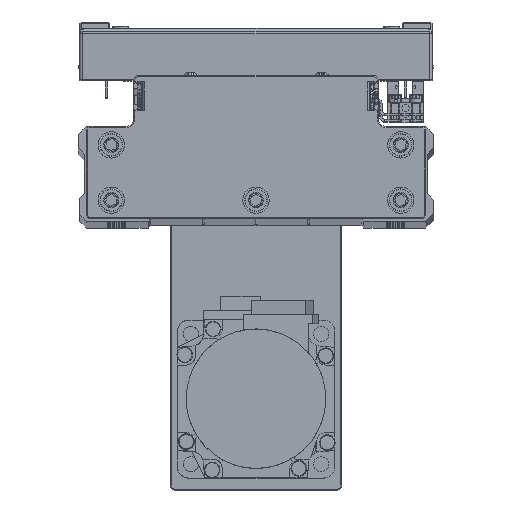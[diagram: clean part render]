
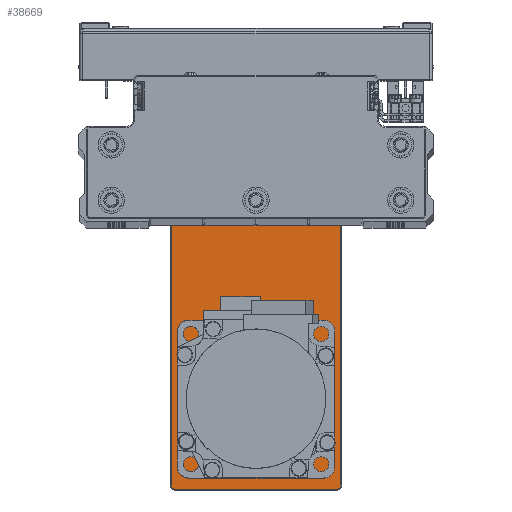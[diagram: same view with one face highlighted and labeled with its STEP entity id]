
A CAD part, top view. The second image highlights one B-rep face of the part: STEP entity #38669.
In plain terms, the highlighted planar face has unit normal (0, 0, 1) as drawn and (0, 1, 0) by its records, which use the part's own axes.
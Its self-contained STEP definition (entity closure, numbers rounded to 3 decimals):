
#66 = ORIENTED_EDGE ( 'NONE', *, *, #2328, .T. ) ;
#200 = CARTESIAN_POINT ( 'NONE',  ( 83.5, 6., -32.2 ) ) ;
#673 = ORIENTED_EDGE ( 'NONE', *, *, #17293, .T. ) ;
#685 = CARTESIAN_POINT ( 'NONE',  ( 52.5, 6., 10.3 ) ) ;
#834 = DIRECTION ( 'NONE',  ( -1., 0., 0. ) ) ;
#1275 = CARTESIAN_POINT ( 'NONE',  ( 52.5, 6., 0. ) ) ;
#1372 = FACE_BOUND ( 'NONE', #15779, .T. ) ;
#1401 = CARTESIAN_POINT ( 'NONE',  ( 61.051, 6., 25.017 ) ) ;
#1413 = ORIENTED_EDGE ( 'NONE', *, *, #8749, .F. ) ;
#1480 = DIRECTION ( 'NONE',  ( 0., 1., 0. ) ) ;
#1485 = DIRECTION ( 'NONE',  ( 0., 0., -1. ) ) ;
#1624 = EDGE_CURVE ( 'NONE', #1679, #27029, #6423, .T. ) ;
#1679 = VERTEX_POINT ( 'NONE', #44539 ) ;
#2127 = EDGE_LOOP ( 'NONE', ( #8379, #1413 ) ) ;
#2286 = CARTESIAN_POINT ( 'NONE',  ( 75.992, 6., -8.551 ) ) ;
#2328 = EDGE_CURVE ( 'NONE', #17771, #6140, #5824, .T. ) ;
#2480 = DIRECTION ( 'NONE',  ( 0., 0., 1. ) ) ;
#3033 = CARTESIAN_POINT ( 'NONE',  ( 75.992, 6., -7.026 ) ) ;
#3960 = EDGE_CURVE ( 'NONE', #20935, #34644, #19447, .T. ) ;
#3986 = DIRECTION ( 'NONE',  ( 0., 0., 1. ) ) ;
#4162 = ORIENTED_EDGE ( 'NONE', *, *, #21222, .T. ) ;
#4427 = LINE ( 'NONE', #18349, #33064 ) ;
#4458 = DIRECTION ( 'NONE',  ( 0., 1., 0. ) ) ;
#4847 = VECTOR ( 'NONE', #38816, 1000. ) ;
#5225 = EDGE_CURVE ( 'NONE', #31842, #7016, #6133, .T. ) ;
#5824 = LINE ( 'NONE', #19754, #27624 ) ;
#6111 = VERTEX_POINT ( 'NONE', #9566 ) ;
#6126 = CIRCLE ( 'NONE', #31684, 1.525 ) ;
#6133 = CIRCLE ( 'NONE', #31691, 1.2 ) ;
#6140 = VERTEX_POINT ( 'NONE', #30617 ) ;
#6423 = CIRCLE ( 'NONE', #31970, 1.525 ) ;
#6776 = AXIS2_PLACEMENT_3D ( 'NONE', #10904, #24840, #38772 ) ;
#7016 = VERTEX_POINT ( 'NONE', #37760 ) ;
#7586 = ORIENTED_EDGE ( 'NONE', *, *, #18562, .F. ) ;
#7630 = AXIS2_PLACEMENT_3D ( 'NONE', #25797, #39740, #8450 ) ;
#8144 = CARTESIAN_POINT ( 'NONE',  ( 52.5, 6., 0. ) ) ;
#8352 = VERTEX_POINT ( 'NONE', #200 ) ;
#8379 = ORIENTED_EDGE ( 'NONE', *, *, #17627, .F. ) ;
#8450 = DIRECTION ( 'NONE',  ( 0., 0., -1. ) ) ;
#8710 = VERTEX_POINT ( 'NONE', #27548 ) ;
#8749 = EDGE_CURVE ( 'NONE', #6111, #39353, #14745, .T. ) ;
#8910 = CARTESIAN_POINT ( 'NONE',  ( 61.051, 6., 21.967 ) ) ;
#9157 = CARTESIAN_POINT ( 'NONE',  ( 83.5, 6., 32.2 ) ) ;
#9566 = CARTESIAN_POINT ( 'NONE',  ( -50.5, 6., -15. ) ) ;
#10512 = DIRECTION ( 'NONE',  ( 0., 0., 1. ) ) ;
#10820 = VERTEX_POINT ( 'NONE', #9157 ) ;
#10904 = CARTESIAN_POINT ( 'NONE',  ( 83.5, 6., -31. ) ) ;
#10950 = LINE ( 'NONE', #24885, #4847 ) ;
#11049 = ORIENTED_EDGE ( 'NONE', *, *, #3960, .T. ) ;
#11123 = DIRECTION ( 'NONE',  ( 0., 0., 1. ) ) ;
#11841 = PLANE ( 'NONE',  #7630 ) ;
#11950 = CARTESIAN_POINT ( 'NONE',  ( 84.7, 6., 31. ) ) ;
#12184 = EDGE_CURVE ( 'NONE', #10820, #17771, #13691, .T. ) ;
#13691 = CIRCLE ( 'NONE', #39253, 1.2 ) ;
#13800 = CARTESIAN_POINT ( 'NONE',  ( -50.5, 6., 0. ) ) ;
#14745 = CIRCLE ( 'NONE', #40271, 15. ) ;
#14812 = CIRCLE ( 'NONE', #40335, 1.2 ) ;
#15193 = DIRECTION ( 'NONE',  ( 0., -1., 0. ) ) ;
#15290 = FACE_BOUND ( 'NONE', #38633, .T. ) ;
#15401 = DIRECTION ( 'NONE',  ( 0., 0., -1. ) ) ;
#15779 = EDGE_LOOP ( 'NONE', ( #7586, #41466 ) ) ;
#16212 = DIRECTION ( 'NONE',  ( 0., 1., 0. ) ) ;
#16941 = ORIENTED_EDGE ( 'NONE', *, *, #43055, .F. ) ;
#17209 = ORIENTED_EDGE ( 'NONE', *, *, #5225, .T. ) ;
#17293 = EDGE_CURVE ( 'NONE', #34644, #20935, #17856, .T. ) ;
#17627 = EDGE_CURVE ( 'NONE', #39353, #6111, #36146, .T. ) ;
#17771 = VERTEX_POINT ( 'NONE', #11950 ) ;
#17856 = CIRCLE ( 'NONE', #43401, 10.3 ) ;
#17895 = ORIENTED_EDGE ( 'NONE', *, *, #12184, .T. ) ;
#17991 = ORIENTED_EDGE ( 'NONE', *, *, #28687, .F. ) ;
#18193 = LINE ( 'NONE', #32151, #38651 ) ;
#18349 = CARTESIAN_POINT ( 'NONE',  ( 0., 6., 32.2 ) ) ;
#18383 = DIRECTION ( 'NONE',  ( 0., 0., -1. ) ) ;
#18562 = EDGE_CURVE ( 'NONE', #27029, #1679, #38385, .T. ) ;
#18691 = AXIS2_PLACEMENT_3D ( 'NONE', #28525, #42430, #11123 ) ;
#18859 = CARTESIAN_POINT ( 'NONE',  ( -83.5, 6., 31. ) ) ;
#19447 = CIRCLE ( 'NONE', #44984, 10.3 ) ;
#19754 = CARTESIAN_POINT ( 'NONE',  ( 84.7, 6., 0. ) ) ;
#19826 = CARTESIAN_POINT ( 'NONE',  ( 61.051, 6., 23.492 ) ) ;
#20612 = AXIS2_PLACEMENT_3D ( 'NONE', #27895, #41810, #10512 ) ;
#20935 = VERTEX_POINT ( 'NONE', #32922 ) ;
#21222 = EDGE_CURVE ( 'NONE', #8710, #31842, #10950, .T. ) ;
#21325 = CARTESIAN_POINT ( 'NONE',  ( -50.5, 6., 0. ) ) ;
#22073 = DIRECTION ( 'NONE',  ( 0., -1., 0. ) ) ;
#22719 = EDGE_LOOP ( 'NONE', ( #16941, #17991 ) ) ;
#23515 = EDGE_LOOP ( 'NONE', ( #24128, #34768, #35595, #4162, #17209, #40416, #17895, #66 ) ) ;
#24128 = ORIENTED_EDGE ( 'NONE', *, *, #27564, .T. ) ;
#24840 = DIRECTION ( 'NONE',  ( 0., 1., 0. ) ) ;
#24885 = CARTESIAN_POINT ( 'NONE',  ( -84.7, 6., 0. ) ) ;
#24995 = EDGE_CURVE ( 'NONE', #8352, #43676, #18193, .T. ) ;
#25459 = VERTEX_POINT ( 'NONE', #1401 ) ;
#25563 = VERTEX_POINT ( 'NONE', #8910 ) ;
#25797 = CARTESIAN_POINT ( 'NONE',  ( 0., 6., 0. ) ) ;
#26479 = CIRCLE ( 'NONE', #6776, 1.2 ) ;
#27029 = VERTEX_POINT ( 'NONE', #3033 ) ;
#27548 = CARTESIAN_POINT ( 'NONE',  ( -84.7, 6., -31. ) ) ;
#27564 = EDGE_CURVE ( 'NONE', #6140, #8352, #26479, .T. ) ;
#27624 = VECTOR ( 'NONE', #33689, 1000. ) ;
#27760 = DIRECTION ( 'NONE',  ( 0., 1., 0. ) ) ;
#27895 = CARTESIAN_POINT ( 'NONE',  ( 61.051, 6., 23.492 ) ) ;
#28525 = CARTESIAN_POINT ( 'NONE',  ( 75.992, 6., -8.551 ) ) ;
#28687 = EDGE_CURVE ( 'NONE', #25563, #25459, #6126, .T. ) ;
#29156 = DIRECTION ( 'NONE',  ( 0., 0., -1. ) ) ;
#29250 = FACE_OUTER_BOUND ( 'NONE', #23515, .T. ) ;
#30184 = DIRECTION ( 'NONE',  ( 0., 0., 1. ) ) ;
#30617 = CARTESIAN_POINT ( 'NONE',  ( 84.7, 6., -31. ) ) ;
#31684 = AXIS2_PLACEMENT_3D ( 'NONE', #19826, #33768, #2480 ) ;
#31691 = AXIS2_PLACEMENT_3D ( 'NONE', #18859, #32797, #1485 ) ;
#31842 = VERTEX_POINT ( 'NONE', #40149 ) ;
#31970 = AXIS2_PLACEMENT_3D ( 'NONE', #2286, #16212, #30184 ) ;
#32151 = CARTESIAN_POINT ( 'NONE',  ( 0., 6., -32.2 ) ) ;
#32309 = DIRECTION ( 'NONE',  ( 1., 0., 0. ) ) ;
#32696 = FACE_BOUND ( 'NONE', #22719, .T. ) ;
#32793 = CARTESIAN_POINT ( 'NONE',  ( -83.5, 6., -31. ) ) ;
#32797 = DIRECTION ( 'NONE',  ( 0., 1., 0. ) ) ;
#32922 = CARTESIAN_POINT ( 'NONE',  ( 52.5, 6., -10.3 ) ) ;
#33064 = VECTOR ( 'NONE', #32309, 1000. ) ;
#33689 = DIRECTION ( 'NONE',  ( 0., 0., -1. ) ) ;
#33768 = DIRECTION ( 'NONE',  ( 0., 1., 0. ) ) ;
#34644 = VERTEX_POINT ( 'NONE', #685 ) ;
#34768 = ORIENTED_EDGE ( 'NONE', *, *, #24995, .T. ) ;
#35291 = DIRECTION ( 'NONE',  ( 0., 1., 0. ) ) ;
#35595 = ORIENTED_EDGE ( 'NONE', *, *, #43519, .T. ) ;
#35680 = EDGE_CURVE ( 'NONE', #7016, #10820, #4427, .T. ) ;
#35776 = CARTESIAN_POINT ( 'NONE',  ( 83.5, 6., 31. ) ) ;
#36040 = DIRECTION ( 'NONE',  ( 0., 0., -1. ) ) ;
#36146 = CIRCLE ( 'NONE', #41960, 15. ) ;
#37111 = CARTESIAN_POINT ( 'NONE',  ( -83.5, 6., -32.2 ) ) ;
#37760 = CARTESIAN_POINT ( 'NONE',  ( -83.5, 6., 32.2 ) ) ;
#38163 = CARTESIAN_POINT ( 'NONE',  ( -50.5, 6., 15. ) ) ;
#38385 = CIRCLE ( 'NONE', #18691, 1.525 ) ;
#38633 = EDGE_LOOP ( 'NONE', ( #673, #11049 ) ) ;
#38651 = VECTOR ( 'NONE', #834, 1000. ) ;
#38669 = ADVANCED_FACE ( 'NONE', ( #32696, #1372, #15290, #29250, #43161 ), #11841, .F. ) ;
#38772 = DIRECTION ( 'NONE',  ( 0., 0., -1. ) ) ;
#38816 = DIRECTION ( 'NONE',  ( 0., 0., 1. ) ) ;
#39253 = AXIS2_PLACEMENT_3D ( 'NONE', #35776, #4458, #18383 ) ;
#39353 = VERTEX_POINT ( 'NONE', #38163 ) ;
#39740 = DIRECTION ( 'NONE',  ( 0., -1., 0. ) ) ;
#40149 = CARTESIAN_POINT ( 'NONE',  ( -84.7, 6., 31. ) ) ;
#40271 = AXIS2_PLACEMENT_3D ( 'NONE', #13800, #27760, #41675 ) ;
#40300 = CIRCLE ( 'NONE', #20612, 1.525 ) ;
#40335 = AXIS2_PLACEMENT_3D ( 'NONE', #32793, #1480, #15401 ) ;
#40416 = ORIENTED_EDGE ( 'NONE', *, *, #35680, .T. ) ;
#41466 = ORIENTED_EDGE ( 'NONE', *, *, #1624, .F. ) ;
#41675 = DIRECTION ( 'NONE',  ( 0., 0., 1. ) ) ;
#41810 = DIRECTION ( 'NONE',  ( 0., 1., 0. ) ) ;
#41960 = AXIS2_PLACEMENT_3D ( 'NONE', #21325, #35291, #3986 ) ;
#42430 = DIRECTION ( 'NONE',  ( 0., 1., 0. ) ) ;
#43055 = EDGE_CURVE ( 'NONE', #25459, #25563, #40300, .T. ) ;
#43161 = FACE_BOUND ( 'NONE', #2127, .T. ) ;
#43401 = AXIS2_PLACEMENT_3D ( 'NONE', #8144, #22073, #36040 ) ;
#43519 = EDGE_CURVE ( 'NONE', #43676, #8710, #14812, .T. ) ;
#43676 = VERTEX_POINT ( 'NONE', #37111 ) ;
#44539 = CARTESIAN_POINT ( 'NONE',  ( 75.992, 6., -10.076 ) ) ;
#44984 = AXIS2_PLACEMENT_3D ( 'NONE', #1275, #15193, #29156 ) ;
